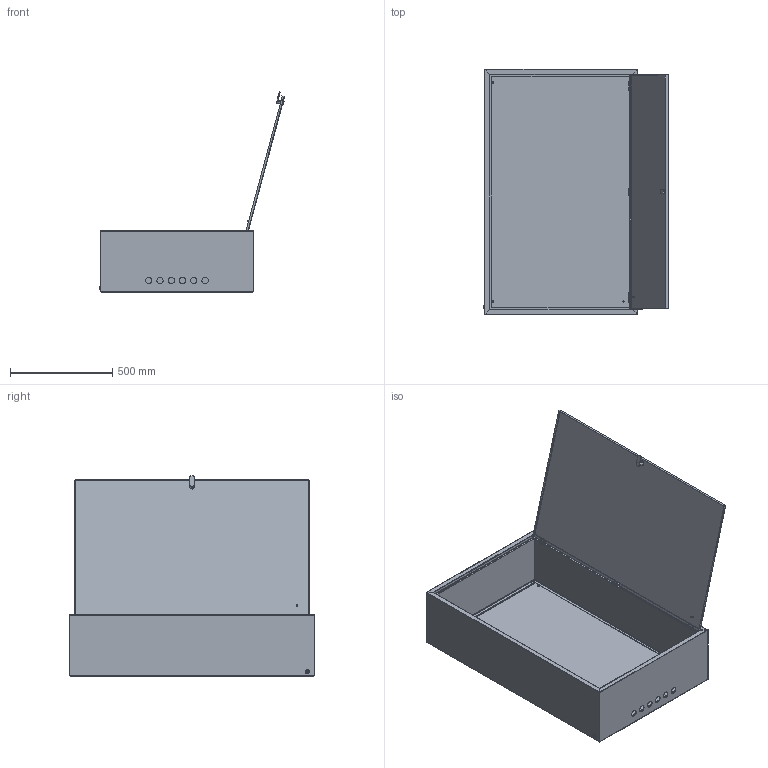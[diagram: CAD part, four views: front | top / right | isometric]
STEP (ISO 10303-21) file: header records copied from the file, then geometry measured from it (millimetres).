
FILE_DESCRIPTION (( 'STEP AP214' ), '1' );
FILE_NAME ('ﾙﾌﾏ-06_IP31.STEP', '2020-03-18T08:56:43', ( '' ), ( '' ), 'SwSTEP 2.0', 'SolidWorks 2018', '' );
FILE_SCHEMA (( 'AUTOMOTIVE_DESIGN' ));
Length unit declared in the file: millimetre
Products named in the file (12): Çàäíÿÿ_Ïàíåëü06; Êîðïóñ_Ëåâûé06; Ïåòëÿ_Äâåðè; ÄâåðüÑÏåòëÿìè06; ч斁熿P31; ﾄ粢06; 暑痫篑_橡噔06; 沓艜_眈翴錪06; Ïåòëÿ_Êîðïóñà; ﾙﾌﾏ-06_IP31; Ãàéêà_Ì8; Ãàéêà_Ì6
Assembly tree (18 placements, depth 3):
  ﾙﾌﾏ-06_IP31
    Êîðïóñ_Ëåâûé06
    暑痫篑_橡噔06
    Çàäíÿÿ_Ïàíåëü06
    Ïåòëÿ_Êîðïóñà  x3
    ÄâåðüÑÏåòëÿìè06
      ﾄ粢06
      Ïåòëÿ_Äâåðè  x3
    ч斁熿P31
    沓艜_眈翴錪06
    Ãàéêà_Ì6  x4
    Ãàéêà_Ì8
Bounding box: 903.66 x 1200 x 977.75 mm (x, y, z)
Volume: 4130958.2 mm3; surface area: 7926306.2 mm2
Topology: 17 solids, 17 shells, 666 faces, 1504 edges, 884 vertices
Faces by surface type: plane 369, cylinder 205, cone 52, bspline 36, torus 4
Entity records: 15628 total; most frequent: CARTESIAN_POINT 4402, DIRECTION 2166, ORIENTED_EDGE 2136, EDGE_CURVE 1068, AXIS2_PLACEMENT_3D 732, LINE 702, VECTOR 702, VERTEX_POINT 624
